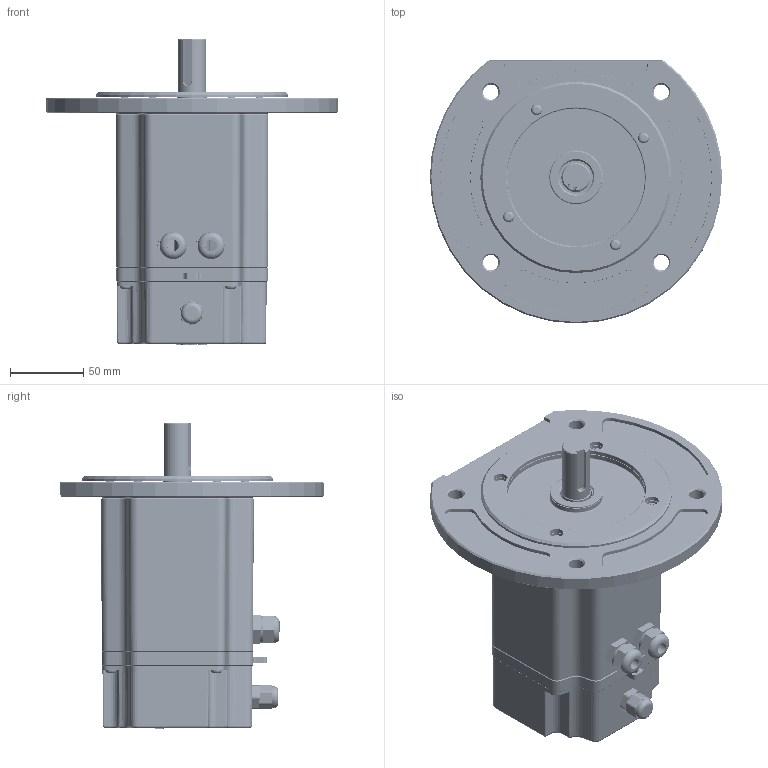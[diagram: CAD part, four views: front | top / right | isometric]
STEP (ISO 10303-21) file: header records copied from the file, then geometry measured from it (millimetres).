
FILE_DESCRIPTION (( 'STEP AP214' ), '1' );
FILE_NAME ('K20¡àK750N¡à-B.STEP', '2025-01-23T08:53:42', ( 'frvao@naver.com' ), ( '' ), 'SwSTEP 2.0', 'SolidWorks 2022', '' );
FILE_SCHEMA (( 'AUTOMOTIVE_DESIGN' ));
Length unit declared in the file: millimetre
Products named in the file (34): BS 290 SKF - SKF 6203-2Z.ipt.STEP.STEP; PCB PIN.ipt.STEP.STEP; ____33.STEP; SHAFT.STEP.STEP; BS 290 SKF - SKF 6304-2Z.ipt.STEP.STEP; SHAFT.ipt.STEP.STEP; 馨檜綰; AS 1420 - 1973 - M4 x 8.ipt.STEP-1.STEP; HALL PCB-RE01(161226).ipt.STEP.STEP; 400W __________A (______)(160913).ipt.STEP.STEP; K20¡àK750N¡à-B; CORE ASS''''''''Y.iam.STEP.STEP; M-CASE.ipt.STEP.STEP; R-ASS''''''''Y.iam.STEP.STEP; MAGNET.ipt.STEP.STEP; だお33; AS 1420 - 1973 - M4 x 8.ipt.STEP.STEP; SHAFT.STEP; REAR-COVER.ipt.STEP.STEP; PCB ASS''''''''Y.iam.STEP.STEP; KGM_ICE_FRONT COVER pi200.STEP; AS 1420 - 1973 - M4 x 8.ipt.STEP-2.STEP; HALL IC HOLDER.ipt.STEP.STEP; AS 1420 - 1973 - M4 x 8.ipt.STEP-0.STEP; FRONT-COVER.ipt.STEP.STEP; BRAKE COVER DC; S-CORE.ipt.STEP.STEP; 400W __________ B (______)(160920).ipt.STEP.STEP; K10__K750N__.STEP.STEP; HALL IC.ipt.STEP.STEP; ______.iam.STEP.STEP; CABLE GRAND.ipt.STEP.STEP; K20¡àK750N¡à.STEP; S-CORE ASS''''''''Y.iam.STEP.STEP
Assembly tree (200 placements, depth 7):
  K20¡àK750N¡à-B
    K20¡àK750N¡à.STEP
      K10__K750N__.STEP.STEP
        ______.iam.STEP.STEP
          R-ASS''''''''Y.iam.STEP.STEP
            SHAFT.ipt.STEP.STEP
            MAGNET.ipt.STEP.STEP
            BS 290 SKF - SKF 6304-2Z.ipt.STEP.STEP
            BS 290 SKF - SKF 6203-2Z.ipt.STEP.STEP
          CORE ASS''''''''Y.iam.STEP.STEP
            S-CORE ASS''''''''Y.iam.STEP.STEP
              S-CORE.ipt.STEP.STEP  x143
            400W __________A (______)(160913).ipt.STEP.STEP
            400W __________ B (______)(160920).ipt.STEP.STEP
            PCB PIN.ipt.STEP.STEP  x12
          PCB ASS''''''''Y.iam.STEP.STEP
            HALL PCB-RE01(161226).ipt.STEP.STEP
            HALL IC HOLDER.ipt.STEP.STEP  x3
            HALL IC.ipt.STEP.STEP  x3
          M-CASE.ipt.STEP.STEP
          FRONT-COVER.ipt.STEP.STEP
          CABLE GRAND.ipt.STEP.STEP  x2
          REAR-COVER.ipt.STEP.STEP
          AS 1420 - 1973 - M4 x 8.ipt.STEP.STEP
          AS 1420 - 1973 - M4 x 8.ipt.STEP-0.STEP
          AS 1420 - 1973 - M4 x 8.ipt.STEP-1.STEP
          AS 1420 - 1973 - M4 x 8.ipt.STEP-2.STEP  x4
        SHAFT.STEP.STEP
      KGM_ICE_FRONT COVER pi200.STEP
      SHAFT.STEP
      ____33.STEP  x4
    BRAKE COVER DC
    馨檜綰
    だお33  x4
Bounding box: 200 x 180 x 209.3 mm (x, y, z)
Volume: 1150232.8 mm3; surface area: 1539073.9 mm2
Topology: 197 solids, 197 shells, 36414 faces, 106514 edges, 70585 vertices
Faces by surface type: plane 18182, cylinder 17185, bspline 379, torus 350, cone 242, sphere 76
Entity records: 191241 total; most frequent: CARTESIAN_POINT 62002, ORIENTED_EDGE 26652, DIRECTION 25699, EDGE_CURVE 13326, AXIS2_PLACEMENT_3D 9089, VERTEX_POINT 8559, LINE 7521, VECTOR 7521
